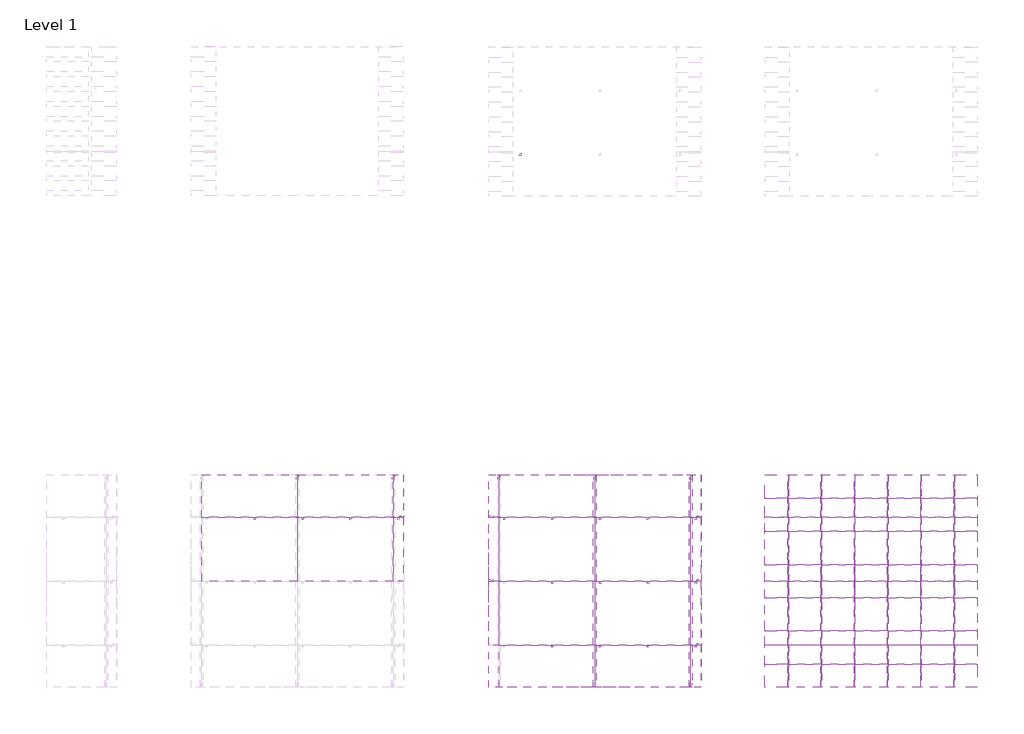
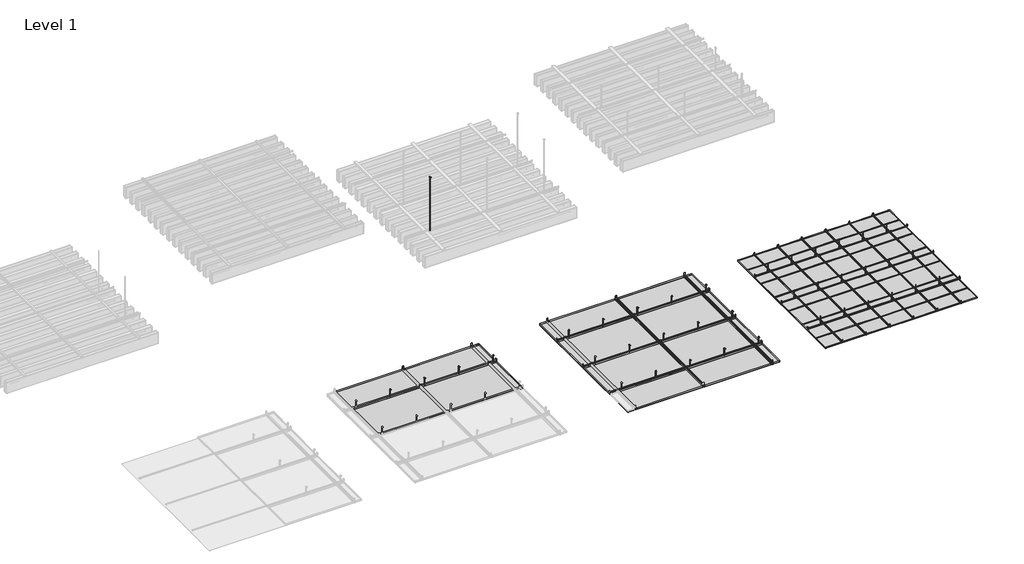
# One storey, part 25 of 32: 141 proxies.
"""IFC4 building model written with IfcOpenShell, lengths in millimetres."""

from ifc_helpers import new_model, si_unit, origin, place, context, project, spatial, transform, mapped, element, save
from components import generic_models_ab528957, generic_models_1702ebeb, generic_models_b2b1e57a, generic_models_3838b954, generic_models_1e71879b, generic_models_39815823, generic_models_aa8f36d8, generic_models_26324e2b, generic_models_eb6e0cd6, generic_models_99a092aa, generic_models_84546a59, generic_models_0f372576, generic_models_da7def32, generic_models_9e18e937, generic_models_28f6a95c, generic_models_9ccf16c1, generic_models_38625c8c, generic_models_743fb40c

model = new_model("IFC4")

# Units and contexts
model_context = context("Model", 3, world=origin())
ifc_project = project(units=[si_unit("LENGTHUNIT", "METRE", prefix="MILLI")], contexts=[model_context])

# Site, building, storey
site = spatial("IfcSite", under=ifc_project)
building = spatial("IfcBuilding", under=site)
storey = spatial("IfcBuildingStorey", under=building, Name="Level 1", Elevation=0.0)

# Proxies
placement = place(None, origin())
generic_models_shape = generic_models_ab528957(model_context)
element("IfcBuildingElementProxy", 1, Name="durlum_S7_panel : durlum_S7_panel", ObjectType="durlum_S7_panel : durlum_S7_panel", at=placement, inside=storey, context=model_context, shape_type="MappedRepresentation", body=[
    mapped(generic_models_shape, transform((16672.6837261, 4350.446135, 3750.0), x_axis=(1.0, 0.0, 0.0), y_axis=(0.0, 1.0, 0.0), z_axis=(0.0, 0.0, 1.0))),
])
element("IfcBuildingElementProxy", 2, Name="durlum_S7_panel : durlum_S7_panel", ObjectType="durlum_S7_panel : durlum_S7_panel", at=placement, inside=storey, context=model_context, shape_type="MappedRepresentation", body=[
    mapped(generic_models_shape, transform((18476.6837261, 4350.446135, 3750.0), x_axis=(1.0, 0.0, 0.0), y_axis=(0.0, 1.0, 0.0), z_axis=(0.0, 0.0, 1.0))),
])
element("IfcBuildingElementProxy", 3, Name="durlum_S7_panel : durlum_S7_panel", ObjectType="durlum_S7_panel : durlum_S7_panel", at=placement, inside=storey, context=model_context, shape_type="MappedRepresentation", body=[
    mapped(generic_models_shape, transform((22270.1507827, 3146.446135, 3750.0), x_axis=(1.0, 0.0, 0.0), y_axis=(0.0, 1.0, 0.0), z_axis=(0.0, 0.0, 1.0))),
])
element("IfcBuildingElementProxy", 4, Name="durlum_S7_panel : durlum_S7_panel", ObjectType="durlum_S7_panel : durlum_S7_panel", at=placement, inside=storey, context=model_context, shape_type="MappedRepresentation", body=[
    mapped(generic_models_shape, transform((24074.1507827, 3146.446135, 3750.0), x_axis=(1.0, 0.0, 0.0), y_axis=(0.0, 1.0, 0.0), z_axis=(0.0, 0.0, 1.0))),
])
element("IfcBuildingElementProxy", 5, Name="durlum_S7_panel : durlum_S7_panel", ObjectType="durlum_S7_panel : durlum_S7_panel", at=placement, inside=storey, context=model_context, shape_type="MappedRepresentation", body=[
    mapped(generic_models_shape, transform((22270.1507827, 4350.446135, 3750.0), x_axis=(1.0, 0.0, 0.0), y_axis=(0.0, 1.0, 0.0), z_axis=(0.0, 0.0, 1.0))),
])
element("IfcBuildingElementProxy", 6, Name="durlum_S7_panel : durlum_S7_panel", ObjectType="durlum_S7_panel : durlum_S7_panel", at=placement, inside=storey, context=model_context, shape_type="MappedRepresentation", body=[
    mapped(generic_models_shape, transform((24074.1507827, 4350.446135, 3750.0), x_axis=(1.0, 0.0, 0.0), y_axis=(0.0, 1.0, 0.0), z_axis=(0.0, 0.0, 1.0))),
])
generic_models_2_shape = generic_models_1702ebeb(model_context)
element("IfcBuildingElementProxy", 7, Name="durlum_S7_panel : durlum_S7_panel_wall_width_cut", ObjectType="durlum_S7_panel : durlum_S7_panel_wall_width_cut", at=placement, inside=storey, context=model_context, shape_type="MappedRepresentation", body=[
    mapped(generic_models_2_shape, transform((18476.6837261, 5350.446135, 3750.0), x_axis=(1.0, 0.0, 0.0), y_axis=(0.0, 1.0, 0.0), z_axis=(0.0, 0.0, 1.0))),
])
element("IfcBuildingElementProxy", 8, Name="durlum_S7_panel : durlum_S7_panel_wall_width_cut", ObjectType="durlum_S7_panel : durlum_S7_panel_wall_width_cut", at=placement, inside=storey, context=model_context, shape_type="MappedRepresentation", body=[
    mapped(generic_models_2_shape, transform((16672.6837261, 5350.446135, 3750.0), x_axis=(1.0, 0.0, 0.0), y_axis=(0.0, 1.0, 0.0), z_axis=(0.0, 0.0, 1.0))),
])
element("IfcBuildingElementProxy", 9, Name="durlum_S7_panel : durlum_S7_panel_wall_width_cut", ObjectType="durlum_S7_panel : durlum_S7_panel_wall_width_cut", at=placement, inside=storey, context=model_context, shape_type="MappedRepresentation", body=[
    mapped(generic_models_2_shape, transform((24074.1507827, 2146.446135, 3750.0), x_axis=(1.0, 0.0, 0.0), y_axis=(0.0, 1.0, 0.0), z_axis=(0.0, 0.0, 1.0))),
])
element("IfcBuildingElementProxy", 10, Name="durlum_S7_panel : durlum_S7_panel_wall_width_cut", ObjectType="durlum_S7_panel : durlum_S7_panel_wall_width_cut", at=placement, inside=storey, context=model_context, shape_type="MappedRepresentation", body=[
    mapped(generic_models_2_shape, transform((24074.1507827, 5350.446135, 3750.0), x_axis=(1.0, 0.0, 0.0), y_axis=(0.0, 1.0, 0.0), z_axis=(0.0, 0.0, 1.0))),
])
element("IfcBuildingElementProxy", 11, Name="durlum_S7_panel : durlum_S7_panel_wall_width_cut", ObjectType="durlum_S7_panel : durlum_S7_panel_wall_width_cut", at=placement, inside=storey, context=model_context, shape_type="MappedRepresentation", body=[
    mapped(generic_models_2_shape, transform((22270.1507827, 2146.446135, 3750.0), x_axis=(1.0, 0.0, 0.0), y_axis=(0.0, 1.0, 0.0), z_axis=(0.0, 0.0, 1.0))),
])
element("IfcBuildingElementProxy", 12, Name="durlum_S7_panel : durlum_S7_panel_wall_width_cut", ObjectType="durlum_S7_panel : durlum_S7_panel_wall_width_cut", at=placement, inside=storey, context=model_context, shape_type="MappedRepresentation", body=[
    mapped(generic_models_2_shape, transform((22270.1507827, 5350.446135, 3750.0), x_axis=(1.0, 0.0, 0.0), y_axis=(0.0, 1.0, 0.0), z_axis=(0.0, 0.0, 1.0))),
])
generic_models_3_shape = generic_models_b2b1e57a(model_context)
element("IfcBuildingElementProxy", 13, Name="durlum_S7_panel : durlum_S7_panel_wall_length_cut", ObjectType="durlum_S7_panel : durlum_S7_panel_wall_length_cut", at=placement, inside=storey, context=model_context, shape_type="MappedRepresentation", body=[
    mapped(generic_models_3_shape, transform((19476.6837261, 4350.446135, 3750.0), x_axis=(1.0, 0.0, 0.0), y_axis=(0.0, 1.0, 0.0), z_axis=(0.0, 0.0, 1.0))),
])
element("IfcBuildingElementProxy", 14, Name="durlum_S7_panel : durlum_S7_panel_wall_length_cut", ObjectType="durlum_S7_panel : durlum_S7_panel_wall_length_cut", at=placement, inside=storey, context=model_context, shape_type="MappedRepresentation", body=[
    mapped(generic_models_3_shape, transform((21270.1507827, 3146.446135, 3750.0), x_axis=(1.0, 0.0, 0.0), y_axis=(0.0, 1.0, 0.0), z_axis=(0.0, 0.0, 1.0))),
])
element("IfcBuildingElementProxy", 15, Name="durlum_S7_panel : durlum_S7_panel_wall_length_cut", ObjectType="durlum_S7_panel : durlum_S7_panel_wall_length_cut", at=placement, inside=storey, context=model_context, shape_type="MappedRepresentation", body=[
    mapped(generic_models_3_shape, transform((25074.1507827, 3146.446135, 3750.0), x_axis=(1.0, 0.0, 0.0), y_axis=(0.0, 1.0, 0.0), z_axis=(0.0, 0.0, 1.0))),
])
element("IfcBuildingElementProxy", 16, Name="durlum_S7_panel : durlum_S7_panel_wall_length_cut", ObjectType="durlum_S7_panel : durlum_S7_panel_wall_length_cut", at=placement, inside=storey, context=model_context, shape_type="MappedRepresentation", body=[
    mapped(generic_models_3_shape, transform((25074.1507827, 4350.446135, 3750.0), x_axis=(1.0, 0.0, 0.0), y_axis=(0.0, 1.0, 0.0), z_axis=(0.0, 0.0, 1.0))),
])
element("IfcBuildingElementProxy", 17, Name="durlum_S7_panel : durlum_S7_panel_wall_length_cut", ObjectType="durlum_S7_panel : durlum_S7_panel_wall_length_cut", at=placement, inside=storey, context=model_context, shape_type="MappedRepresentation", body=[
    mapped(generic_models_3_shape, transform((21270.1507827, 4350.446135, 3750.0), x_axis=(1.0, 0.0, 0.0), y_axis=(0.0, 1.0, 0.0), z_axis=(0.0, 0.0, 1.0))),
])
generic_models_4_shape = generic_models_3838b954(model_context)
element("IfcBuildingElementProxy", 18, Name="durlum_S7_panel : durlum_S7_panel_wall_corner", ObjectType="durlum_S7_panel : durlum_S7_panel_wall_corner", at=placement, inside=storey, context=model_context, shape_type="MappedRepresentation", body=[
    mapped(generic_models_4_shape, transform((19476.6837261, 5350.446135, 3750.0), x_axis=(1.0, 0.0, 0.0), y_axis=(0.0, 1.0, 0.0), z_axis=(0.0, 0.0, 1.0))),
])
element("IfcBuildingElementProxy", 19, Name="durlum_S7_panel : durlum_S7_panel_wall_corner", ObjectType="durlum_S7_panel : durlum_S7_panel_wall_corner", at=placement, inside=storey, context=model_context, shape_type="MappedRepresentation", body=[
    mapped(generic_models_4_shape, transform((25074.1507827, 2146.446135, 3750.0), x_axis=(1.0, 0.0, 0.0), y_axis=(0.0, 1.0, 0.0), z_axis=(0.0, 0.0, 1.0))),
])
element("IfcBuildingElementProxy", 20, Name="durlum_S7_panel : durlum_S7_panel_wall_corner", ObjectType="durlum_S7_panel : durlum_S7_panel_wall_corner", at=placement, inside=storey, context=model_context, shape_type="MappedRepresentation", body=[
    mapped(generic_models_4_shape, transform((25074.1507827, 5350.446135, 3750.0), x_axis=(1.0, 0.0, 0.0), y_axis=(0.0, 1.0, 0.0), z_axis=(0.0, 0.0, 1.0))),
])
element("IfcBuildingElementProxy", 21, Name="durlum_S7_panel : durlum_S7_panel_wall_corner", ObjectType="durlum_S7_panel : durlum_S7_panel_wall_corner", at=placement, inside=storey, context=model_context, shape_type="MappedRepresentation", body=[
    mapped(generic_models_4_shape, transform((21270.1507827, 5350.446135, 3750.0), x_axis=(1.0, 0.0, 0.0), y_axis=(0.0, 1.0, 0.0), z_axis=(0.0, 0.0, 1.0))),
])
generic_models_5_shape = generic_models_1e71879b(model_context)
element("IfcBuildingElementProxy", 22, Name="durlum_FLUID-C : durlum_FLUID-C_604x604", ObjectType="durlum_FLUID-C : durlum_FLUID-C_604x604", at=placement, inside=storey, context=model_context, shape_type="MappedRepresentation", body=[
    mapped(generic_models_5_shape, transform((23172.1507827, 3748.446135, 0.0), x_axis=(1.0, 0.0, 0.0), y_axis=(0.0, 1.0, 0.0), z_axis=(0.0, 0.0, 1.0))),
])
generic_models_6_shape = generic_models_39815823(model_context)
element("IfcBuildingElementProxy", 23, Name="durlum_S1_panel : durlum_S1_panel", ObjectType="durlum_S1_panel : durlum_S1_panel", at=placement, inside=storey, context=model_context, shape_type="MappedRepresentation", body=[
    mapped(generic_models_6_shape, transform((27747.1507827, 4373.446135, 3711.0), x_axis=(1.0, 0.0, 0.0), y_axis=(0.0, 1.0, 0.0), z_axis=(0.0, 0.0, 1.0))),
])
element("IfcBuildingElementProxy", 24, Name="durlum_S1_panel : durlum_S1_panel", ObjectType="durlum_S1_panel : durlum_S1_panel", at=placement, inside=storey, context=model_context, shape_type="MappedRepresentation", body=[
    mapped(generic_models_6_shape, transform((27747.1507827, 2498.446135, 3711.0), x_axis=(1.0, 0.0, 0.0), y_axis=(0.0, 1.0, 0.0), z_axis=(0.0, 0.0, 1.0))),
])
element("IfcBuildingElementProxy", 25, Name="durlum_S1_panel : durlum_S1_panel", ObjectType="durlum_S1_panel : durlum_S1_panel", at=placement, inside=storey, context=model_context, shape_type="MappedRepresentation", body=[
    mapped(generic_models_6_shape, transform((27747.1507827, 4998.446135, 3711.0), x_axis=(1.0, 0.0, 0.0), y_axis=(0.0, 1.0, 0.0), z_axis=(0.0, 0.0, 1.0))),
])
element("IfcBuildingElementProxy", 26, Name="durlum_S1_panel : durlum_S1_panel", ObjectType="durlum_S1_panel : durlum_S1_panel", at=placement, inside=storey, context=model_context, shape_type="MappedRepresentation", body=[
    mapped(generic_models_6_shape, transform((27122.1507827, 4373.446135, 3711.0), x_axis=(1.0, 0.0, 0.0), y_axis=(0.0, 1.0, 0.0), z_axis=(0.0, 0.0, 1.0))),
])
element("IfcBuildingElementProxy", 27, Name="durlum_S1_panel : durlum_S1_panel", ObjectType="durlum_S1_panel : durlum_S1_panel", at=placement, inside=storey, context=model_context, shape_type="MappedRepresentation", body=[
    mapped(generic_models_6_shape, transform((29622.1507827, 4373.446135, 3711.0), x_axis=(1.0, 0.0, 0.0), y_axis=(0.0, 1.0, 0.0), z_axis=(0.0, 0.0, 1.0))),
])
element("IfcBuildingElementProxy", 28, Name="durlum_S1_panel : durlum_S1_panel", ObjectType="durlum_S1_panel : durlum_S1_panel", at=placement, inside=storey, context=model_context, shape_type="MappedRepresentation", body=[
    mapped(generic_models_6_shape, transform((27122.1507827, 2498.446135, 3711.0), x_axis=(1.0, 0.0, 0.0), y_axis=(0.0, 1.0, 0.0), z_axis=(0.0, 0.0, 1.0))),
])
element("IfcBuildingElementProxy", 29, Name="durlum_S1_panel : durlum_S1_panel", ObjectType="durlum_S1_panel : durlum_S1_panel", at=placement, inside=storey, context=model_context, shape_type="MappedRepresentation", body=[
    mapped(generic_models_6_shape, transform((29622.1507827, 2498.446135, 3711.0), x_axis=(1.0, 0.0, 0.0), y_axis=(0.0, 1.0, 0.0), z_axis=(0.0, 0.0, 1.0))),
])
element("IfcBuildingElementProxy", 30, Name="durlum_S1_panel : durlum_S1_panel", ObjectType="durlum_S1_panel : durlum_S1_panel", at=placement, inside=storey, context=model_context, shape_type="MappedRepresentation", body=[
    mapped(generic_models_6_shape, transform((27122.1507827, 4998.446135, 3711.0), x_axis=(1.0, 0.0, 0.0), y_axis=(0.0, 1.0, 0.0), z_axis=(0.0, 0.0, 1.0))),
])
element("IfcBuildingElementProxy", 31, Name="durlum_S1_panel : durlum_S1_panel", ObjectType="durlum_S1_panel : durlum_S1_panel", at=placement, inside=storey, context=model_context, shape_type="MappedRepresentation", body=[
    mapped(generic_models_6_shape, transform((29622.1507827, 4998.446135, 3711.0), x_axis=(1.0, 0.0, 0.0), y_axis=(0.0, 1.0, 0.0), z_axis=(0.0, 0.0, 1.0))),
])
element("IfcBuildingElementProxy", 32, Name="durlum_S1_panel : durlum_S1_panel", ObjectType="durlum_S1_panel : durlum_S1_panel", at=placement, inside=storey, context=model_context, shape_type="MappedRepresentation", body=[
    mapped(generic_models_6_shape, transform((28372.1507827, 2498.446135, 3711.0), x_axis=(1.0, 0.0, 0.0), y_axis=(0.0, 1.0, 0.0), z_axis=(0.0, 0.0, 1.0))),
])
element("IfcBuildingElementProxy", 33, Name="durlum_S1_panel : durlum_S1_panel", ObjectType="durlum_S1_panel : durlum_S1_panel", at=placement, inside=storey, context=model_context, shape_type="MappedRepresentation", body=[
    mapped(generic_models_6_shape, transform((28997.1507827, 2498.446135, 3711.0), x_axis=(1.0, 0.0, 0.0), y_axis=(0.0, 1.0, 0.0), z_axis=(0.0, 0.0, 1.0))),
])
element("IfcBuildingElementProxy", 34, Name="durlum_S1_panel : durlum_S1_panel", ObjectType="durlum_S1_panel : durlum_S1_panel", at=placement, inside=storey, context=model_context, shape_type="MappedRepresentation", body=[
    mapped(generic_models_6_shape, transform((28372.1507827, 4998.446135, 3711.0), x_axis=(1.0, 0.0, 0.0), y_axis=(0.0, 1.0, 0.0), z_axis=(0.0, 0.0, 1.0))),
])
element("IfcBuildingElementProxy", 35, Name="durlum_S1_panel : durlum_S1_panel", ObjectType="durlum_S1_panel : durlum_S1_panel", at=placement, inside=storey, context=model_context, shape_type="MappedRepresentation", body=[
    mapped(generic_models_6_shape, transform((28997.1507827, 4998.446135, 3711.0), x_axis=(1.0, 0.0, 0.0), y_axis=(0.0, 1.0, 0.0), z_axis=(0.0, 0.0, 1.0))),
])
element("IfcBuildingElementProxy", 36, Name="durlum_S1_panel : durlum_S1_panel", ObjectType="durlum_S1_panel : durlum_S1_panel", at=placement, inside=storey, context=model_context, shape_type="MappedRepresentation", body=[
    mapped(generic_models_6_shape, transform((28372.1507827, 4373.446135, 3711.0), x_axis=(1.0, 0.0, 0.0), y_axis=(0.0, 1.0, 0.0), z_axis=(0.0, 0.0, 1.0))),
])
element("IfcBuildingElementProxy", 37, Name="durlum_S1_panel : durlum_S1_panel", ObjectType="durlum_S1_panel : durlum_S1_panel", at=placement, inside=storey, context=model_context, shape_type="MappedRepresentation", body=[
    mapped(generic_models_6_shape, transform((28997.1507827, 4373.446135, 3711.0), x_axis=(1.0, 0.0, 0.0), y_axis=(0.0, 1.0, 0.0), z_axis=(0.0, 0.0, 1.0))),
])
element("IfcBuildingElementProxy", 38, Name="durlum_S1_panel : durlum_S1_panel", ObjectType="durlum_S1_panel : durlum_S1_panel", at=placement, inside=storey, context=model_context, shape_type="MappedRepresentation", body=[
    mapped(generic_models_6_shape, transform((28372.1507827, 3123.446135, 3711.0), x_axis=(1.0, 0.0, 0.0), y_axis=(0.0, 1.0, 0.0), z_axis=(0.0, 0.0, 1.0))),
])
element("IfcBuildingElementProxy", 39, Name="durlum_S1_panel : durlum_S1_panel", ObjectType="durlum_S1_panel : durlum_S1_panel", at=placement, inside=storey, context=model_context, shape_type="MappedRepresentation", body=[
    mapped(generic_models_6_shape, transform((28997.1507827, 3123.446135, 3711.0), x_axis=(1.0, 0.0, 0.0), y_axis=(0.0, 1.0, 0.0), z_axis=(0.0, 0.0, 1.0))),
])
element("IfcBuildingElementProxy", 40, Name="durlum_S1_panel : durlum_S1_panel", ObjectType="durlum_S1_panel : durlum_S1_panel", at=placement, inside=storey, context=model_context, shape_type="MappedRepresentation", body=[
    mapped(generic_models_6_shape, transform((27747.1507827, 3123.446135, 3711.0), x_axis=(1.0, 0.0, 0.0), y_axis=(0.0, 1.0, 0.0), z_axis=(0.0, 0.0, 1.0))),
])
element("IfcBuildingElementProxy", 41, Name="durlum_S1_panel : durlum_S1_panel", ObjectType="durlum_S1_panel : durlum_S1_panel", at=placement, inside=storey, context=model_context, shape_type="MappedRepresentation", body=[
    mapped(generic_models_6_shape, transform((27122.1507827, 3123.446135, 3711.0), x_axis=(1.0, 0.0, 0.0), y_axis=(0.0, 1.0, 0.0), z_axis=(0.0, 0.0, 1.0))),
])
element("IfcBuildingElementProxy", 42, Name="durlum_S1_panel : durlum_S1_panel", ObjectType="durlum_S1_panel : durlum_S1_panel", at=placement, inside=storey, context=model_context, shape_type="MappedRepresentation", body=[
    mapped(generic_models_6_shape, transform((29622.1507827, 3123.446135, 3711.0), x_axis=(1.0, 0.0, 0.0), y_axis=(0.0, 1.0, 0.0), z_axis=(0.0, 0.0, 1.0))),
])
element("IfcBuildingElementProxy", 43, Name="durlum_S1_panel : durlum_S1_panel", ObjectType="durlum_S1_panel : durlum_S1_panel", at=placement, inside=storey, context=model_context, shape_type="MappedRepresentation", body=[
    mapped(generic_models_6_shape, transform((28372.1507827, 3748.446135, 3711.0), x_axis=(1.0, 0.0, 0.0), y_axis=(0.0, 1.0, 0.0), z_axis=(0.0, 0.0, 1.0))),
])
element("IfcBuildingElementProxy", 44, Name="durlum_S1_panel : durlum_S1_panel", ObjectType="durlum_S1_panel : durlum_S1_panel", at=placement, inside=storey, context=model_context, shape_type="MappedRepresentation", body=[
    mapped(generic_models_6_shape, transform((28997.1507827, 3748.446135, 3711.0), x_axis=(1.0, 0.0, 0.0), y_axis=(0.0, 1.0, 0.0), z_axis=(0.0, 0.0, 1.0))),
])
element("IfcBuildingElementProxy", 45, Name="durlum_S1_panel : durlum_S1_panel", ObjectType="durlum_S1_panel : durlum_S1_panel", at=placement, inside=storey, context=model_context, shape_type="MappedRepresentation", body=[
    mapped(generic_models_6_shape, transform((27747.1507827, 3748.446135, 3711.0), x_axis=(1.0, 0.0, 0.0), y_axis=(0.0, 1.0, 0.0), z_axis=(0.0, 0.0, 1.0))),
])
element("IfcBuildingElementProxy", 46, Name="durlum_S1_panel : durlum_S1_panel", ObjectType="durlum_S1_panel : durlum_S1_panel", at=placement, inside=storey, context=model_context, shape_type="MappedRepresentation", body=[
    mapped(generic_models_6_shape, transform((27122.1507827, 3748.446135, 3711.0), x_axis=(1.0, 0.0, 0.0), y_axis=(0.0, 1.0, 0.0), z_axis=(0.0, 0.0, 1.0))),
])
element("IfcBuildingElementProxy", 47, Name="durlum_S1_panel : durlum_S1_panel", ObjectType="durlum_S1_panel : durlum_S1_panel", at=placement, inside=storey, context=model_context, shape_type="MappedRepresentation", body=[
    mapped(generic_models_6_shape, transform((29622.1507827, 3748.446135, 3711.0), x_axis=(1.0, 0.0, 0.0), y_axis=(0.0, 1.0, 0.0), z_axis=(0.0, 0.0, 1.0))),
])
generic_models_7_shape = generic_models_aa8f36d8(model_context)
element("IfcBuildingElementProxy", 48, Name="durlum_S1_panel : durlum_S1_panel_wall_length_cut", ObjectType="durlum_S1_panel : durlum_S1_panel_wall_length_cut", at=placement, inside=storey, context=model_context, shape_type="MappedRepresentation", body=[
    mapped(generic_models_7_shape, transform((26590.9007827, 4373.446135, 3711.0), x_axis=(1.0, 0.0, 0.0), y_axis=(0.0, 1.0, 0.0), z_axis=(0.0, 0.0, 1.0))),
])
element("IfcBuildingElementProxy", 49, Name="durlum_S1_panel : durlum_S1_panel_wall_length_cut", ObjectType="durlum_S1_panel : durlum_S1_panel_wall_length_cut", at=placement, inside=storey, context=model_context, shape_type="MappedRepresentation", body=[
    mapped(generic_models_7_shape, transform((30153.4007827, 4373.446135, 3711.0), x_axis=(1.0, 0.0, 0.0), y_axis=(0.0, 1.0, 0.0), z_axis=(0.0, 0.0, 1.0))),
])
element("IfcBuildingElementProxy", 50, Name="durlum_S1_panel : durlum_S1_panel_wall_length_cut", ObjectType="durlum_S1_panel : durlum_S1_panel_wall_length_cut", at=placement, inside=storey, context=model_context, shape_type="MappedRepresentation", body=[
    mapped(generic_models_7_shape, transform((26590.9007827, 2498.446135, 3711.0), x_axis=(1.0, 0.0, 0.0), y_axis=(0.0, 1.0, 0.0), z_axis=(0.0, 0.0, 1.0))),
])
element("IfcBuildingElementProxy", 51, Name="durlum_S1_panel : durlum_S1_panel_wall_length_cut", ObjectType="durlum_S1_panel : durlum_S1_panel_wall_length_cut", at=placement, inside=storey, context=model_context, shape_type="MappedRepresentation", body=[
    mapped(generic_models_7_shape, transform((30153.4007827, 2498.446135, 3711.0), x_axis=(1.0, 0.0, 0.0), y_axis=(0.0, 1.0, 0.0), z_axis=(0.0, 0.0, 1.0))),
])
element("IfcBuildingElementProxy", 52, Name="durlum_S1_panel : durlum_S1_panel_wall_length_cut", ObjectType="durlum_S1_panel : durlum_S1_panel_wall_length_cut", at=placement, inside=storey, context=model_context, shape_type="MappedRepresentation", body=[
    mapped(generic_models_7_shape, transform((30153.4007827, 4998.446135, 3711.0), x_axis=(1.0, 0.0, 0.0), y_axis=(0.0, 1.0, 0.0), z_axis=(0.0, 0.0, 1.0))),
])
element("IfcBuildingElementProxy", 53, Name="durlum_S1_panel : durlum_S1_panel_wall_length_cut", ObjectType="durlum_S1_panel : durlum_S1_panel_wall_length_cut", at=placement, inside=storey, context=model_context, shape_type="MappedRepresentation", body=[
    mapped(generic_models_7_shape, transform((26590.9007827, 4998.446135, 3711.0), x_axis=(1.0, 0.0, 0.0), y_axis=(0.0, 1.0, 0.0), z_axis=(0.0, 0.0, 1.0))),
])
element("IfcBuildingElementProxy", 54, Name="durlum_S1_panel : durlum_S1_panel_wall_length_cut", ObjectType="durlum_S1_panel : durlum_S1_panel_wall_length_cut", at=placement, inside=storey, context=model_context, shape_type="MappedRepresentation", body=[
    mapped(generic_models_7_shape, transform((30153.4007827, 3123.446135, 3711.0), x_axis=(1.0, 0.0, 0.0), y_axis=(0.0, 1.0, 0.0), z_axis=(0.0, 0.0, 1.0))),
])
element("IfcBuildingElementProxy", 55, Name="durlum_S1_panel : durlum_S1_panel_wall_length_cut", ObjectType="durlum_S1_panel : durlum_S1_panel_wall_length_cut", at=placement, inside=storey, context=model_context, shape_type="MappedRepresentation", body=[
    mapped(generic_models_7_shape, transform((30153.4007827, 3748.446135, 3711.0), x_axis=(1.0, 0.0, 0.0), y_axis=(0.0, 1.0, 0.0), z_axis=(0.0, 0.0, 1.0))),
])
element("IfcBuildingElementProxy", 56, Name="durlum_S1_panel : durlum_S1_panel_wall_length_cut", ObjectType="durlum_S1_panel : durlum_S1_panel_wall_length_cut", at=placement, inside=storey, context=model_context, shape_type="MappedRepresentation", body=[
    mapped(generic_models_7_shape, transform((26590.9007827, 3123.446135, 3711.0), x_axis=(1.0, 0.0, 0.0), y_axis=(0.0, 1.0, 0.0), z_axis=(0.0, 0.0, 1.0))),
])
element("IfcBuildingElementProxy", 57, Name="durlum_S1_panel : durlum_S1_panel_wall_length_cut", ObjectType="durlum_S1_panel : durlum_S1_panel_wall_length_cut", at=placement, inside=storey, context=model_context, shape_type="MappedRepresentation", body=[
    mapped(generic_models_7_shape, transform((26590.9007827, 3748.446135, 3711.0), x_axis=(1.0, 0.0, 0.0), y_axis=(0.0, 1.0, 0.0), z_axis=(0.0, 0.0, 1.0))),
])
generic_models_8_shape = generic_models_26324e2b(model_context)
element("IfcBuildingElementProxy", 58, Name="durlum_S1_panel : durlum_S1_panel_wall_width_cut", ObjectType="durlum_S1_panel : durlum_S1_panel_wall_width_cut", at=placement, inside=storey, context=model_context, shape_type="MappedRepresentation", body=[
    mapped(generic_models_8_shape, transform((27747.1507827, 1967.196135, 3711.0), x_axis=(1.0, 0.0, 0.0), y_axis=(0.0, 1.0, 0.0), z_axis=(0.0, 0.0, 1.0))),
])
element("IfcBuildingElementProxy", 59, Name="durlum_S1_panel : durlum_S1_panel_wall_width_cut", ObjectType="durlum_S1_panel : durlum_S1_panel_wall_width_cut", at=placement, inside=storey, context=model_context, shape_type="MappedRepresentation", body=[
    mapped(generic_models_8_shape, transform((27747.1507827, 5529.696135, 3711.0), x_axis=(1.0, 0.0, 0.0), y_axis=(0.0, 1.0, 0.0), z_axis=(0.0, 0.0, 1.0))),
])
element("IfcBuildingElementProxy", 60, Name="durlum_S1_panel : durlum_S1_panel_wall_width_cut", ObjectType="durlum_S1_panel : durlum_S1_panel_wall_width_cut", at=placement, inside=storey, context=model_context, shape_type="MappedRepresentation", body=[
    mapped(generic_models_8_shape, transform((29622.1507827, 1967.196135, 3711.0), x_axis=(1.0, 0.0, 0.0), y_axis=(0.0, 1.0, 0.0), z_axis=(0.0, 0.0, 1.0))),
])
element("IfcBuildingElementProxy", 61, Name="durlum_S1_panel : durlum_S1_panel_wall_width_cut", ObjectType="durlum_S1_panel : durlum_S1_panel_wall_width_cut", at=placement, inside=storey, context=model_context, shape_type="MappedRepresentation", body=[
    mapped(generic_models_8_shape, transform((29622.1507827, 5529.696135, 3711.0), x_axis=(1.0, 0.0, 0.0), y_axis=(0.0, 1.0, 0.0), z_axis=(0.0, 0.0, 1.0))),
])
element("IfcBuildingElementProxy", 62, Name="durlum_S1_panel : durlum_S1_panel_wall_width_cut", ObjectType="durlum_S1_panel : durlum_S1_panel_wall_width_cut", at=placement, inside=storey, context=model_context, shape_type="MappedRepresentation", body=[
    mapped(generic_models_8_shape, transform((27122.1507827, 1967.196135, 3711.0), x_axis=(1.0, 0.0, 0.0), y_axis=(0.0, 1.0, 0.0), z_axis=(0.0, 0.0, 1.0))),
])
element("IfcBuildingElementProxy", 63, Name="durlum_S1_panel : durlum_S1_panel_wall_width_cut", ObjectType="durlum_S1_panel : durlum_S1_panel_wall_width_cut", at=placement, inside=storey, context=model_context, shape_type="MappedRepresentation", body=[
    mapped(generic_models_8_shape, transform((27122.1507827, 5529.696135, 3711.0), x_axis=(1.0, 0.0, 0.0), y_axis=(0.0, 1.0, 0.0), z_axis=(0.0, 0.0, 1.0))),
])
element("IfcBuildingElementProxy", 64, Name="durlum_S1_panel : durlum_S1_panel_wall_width_cut", ObjectType="durlum_S1_panel : durlum_S1_panel_wall_width_cut", at=placement, inside=storey, context=model_context, shape_type="MappedRepresentation", body=[
    mapped(generic_models_8_shape, transform((28997.1507827, 1967.196135, 3711.0), x_axis=(1.0, 0.0, 0.0), y_axis=(0.0, 1.0, 0.0), z_axis=(0.0, 0.0, 1.0))),
])
element("IfcBuildingElementProxy", 65, Name="durlum_S1_panel : durlum_S1_panel_wall_width_cut", ObjectType="durlum_S1_panel : durlum_S1_panel_wall_width_cut", at=placement, inside=storey, context=model_context, shape_type="MappedRepresentation", body=[
    mapped(generic_models_8_shape, transform((28372.1507827, 1967.196135, 3711.0), x_axis=(1.0, 0.0, 0.0), y_axis=(0.0, 1.0, 0.0), z_axis=(0.0, 0.0, 1.0))),
])
element("IfcBuildingElementProxy", 66, Name="durlum_S1_panel : durlum_S1_panel_wall_width_cut", ObjectType="durlum_S1_panel : durlum_S1_panel_wall_width_cut", at=placement, inside=storey, context=model_context, shape_type="MappedRepresentation", body=[
    mapped(generic_models_8_shape, transform((28997.1507827, 5529.696135, 3711.0), x_axis=(1.0, 0.0, 0.0), y_axis=(0.0, 1.0, 0.0), z_axis=(0.0, 0.0, 1.0))),
])
element("IfcBuildingElementProxy", 67, Name="durlum_S1_panel : durlum_S1_panel_wall_width_cut", ObjectType="durlum_S1_panel : durlum_S1_panel_wall_width_cut", at=placement, inside=storey, context=model_context, shape_type="MappedRepresentation", body=[
    mapped(generic_models_8_shape, transform((28372.1507827, 5529.696135, 3711.0), x_axis=(1.0, 0.0, 0.0), y_axis=(0.0, 1.0, 0.0), z_axis=(0.0, 0.0, 1.0))),
])
generic_models_9_shape = generic_models_eb6e0cd6(model_context)
element("IfcBuildingElementProxy", 68, Name="durlum_S1_panel : durlum_S1_panel_wall_corner", ObjectType="durlum_S1_panel : durlum_S1_panel_wall_corner", at=placement, inside=storey, context=model_context, shape_type="MappedRepresentation", body=[
    mapped(generic_models_9_shape, transform((26590.9007827, 1967.196135, 3711.0), x_axis=(1.0, 0.0, 0.0), y_axis=(0.0, 1.0, 0.0), z_axis=(0.0, 0.0, 1.0))),
])
element("IfcBuildingElementProxy", 69, Name="durlum_S1_panel : durlum_S1_panel_wall_corner", ObjectType="durlum_S1_panel : durlum_S1_panel_wall_corner", at=placement, inside=storey, context=model_context, shape_type="MappedRepresentation", body=[
    mapped(generic_models_9_shape, transform((30153.4007827, 1967.196135, 3711.0), x_axis=(1.0, 0.0, 0.0), y_axis=(0.0, 1.0, 0.0), z_axis=(0.0, 0.0, 1.0))),
])
element("IfcBuildingElementProxy", 70, Name="durlum_S1_panel : durlum_S1_panel_wall_corner", ObjectType="durlum_S1_panel : durlum_S1_panel_wall_corner", at=placement, inside=storey, context=model_context, shape_type="MappedRepresentation", body=[
    mapped(generic_models_9_shape, transform((30153.4007827, 5529.696135, 3711.0), x_axis=(1.0, 0.0, 0.0), y_axis=(0.0, 1.0, 0.0), z_axis=(0.0, 0.0, 1.0))),
])
element("IfcBuildingElementProxy", 71, Name="durlum_S1_panel : durlum_S1_panel_wall_corner", ObjectType="durlum_S1_panel : durlum_S1_panel_wall_corner", at=placement, inside=storey, context=model_context, shape_type="MappedRepresentation", body=[
    mapped(generic_models_9_shape, transform((26590.9007827, 5529.696135, 3711.0), x_axis=(1.0, 0.0, 0.0), y_axis=(0.0, 1.0, 0.0), z_axis=(0.0, 0.0, 1.0))),
])
generic_models_10_shape = generic_models_99a092aa(model_context)
element("IfcBuildingElementProxy", 72, Name="durlum_FLUID-L : durlum_FLUID-L", ObjectType="durlum_FLUID-L : durlum_FLUID-L", at=placement, inside=storey, context=model_context, shape_type="MappedRepresentation", body=[
    mapped(generic_models_10_shape, transform((28372.1507827, 3748.446135, 1700.0), x_axis=(1.0, 0.0, 0.0), y_axis=(0.0, 1.0, 0.0), z_axis=(0.0, 0.0, 1.0))),
])
generic_models_11_shape = generic_models_84546a59(model_context)
element("IfcBuildingElementProxy", 73, Name="durlum_threaded_rod_M6 : durlum_threaded_rod_M6", ObjectType="durlum_threaded_rod_M6 : durlum_threaded_rod_M6", at=placement, inside=storey, context=model_context, shape_type="MappedRepresentation", body=[
    mapped(generic_models_11_shape, transform((29834.6507827, 2548.446135, 3835.0), x_axis=(1.0, 0.0, 0.0), y_axis=(0.0, 1.0, 0.0), z_axis=(0.0, 0.0, 1.0))),
])
element("IfcBuildingElementProxy", 74, Name="durlum_threaded_rod_M6 : durlum_threaded_rod_M6", ObjectType="durlum_threaded_rod_M6 : durlum_threaded_rod_M6", at=placement, inside=storey, context=model_context, shape_type="MappedRepresentation", body=[
    mapped(generic_models_11_shape, transform((26709.6507827, 2548.446135, 3835.0), x_axis=(1.0, 0.0, 0.0), y_axis=(0.0, 1.0, 0.0), z_axis=(0.0, 0.0, 1.0))),
])
element("IfcBuildingElementProxy", 75, Name="durlum_threaded_rod_M6 : durlum_threaded_rod_M6", ObjectType="durlum_threaded_rod_M6 : durlum_threaded_rod_M6", at=placement, inside=storey, context=model_context, shape_type="MappedRepresentation", body=[
    mapped(generic_models_11_shape, transform((29209.6507827, 2548.446135, 3835.0), x_axis=(1.0, 0.0, 0.0), y_axis=(0.0, 1.0, 0.0), z_axis=(0.0, 0.0, 1.0))),
])
element("IfcBuildingElementProxy", 76, Name="durlum_threaded_rod_M6 : durlum_threaded_rod_M6", ObjectType="durlum_threaded_rod_M6 : durlum_threaded_rod_M6", at=placement, inside=storey, context=model_context, shape_type="MappedRepresentation", body=[
    mapped(generic_models_11_shape, transform((28584.6507827, 2548.446135, 3835.0), x_axis=(1.0, 0.0, 0.0), y_axis=(0.0, 1.0, 0.0), z_axis=(0.0, 0.0, 1.0))),
])
element("IfcBuildingElementProxy", 77, Name="durlum_threaded_rod_M6 : durlum_threaded_rod_M6", ObjectType="durlum_threaded_rod_M6 : durlum_threaded_rod_M6", at=placement, inside=storey, context=model_context, shape_type="MappedRepresentation", body=[
    mapped(generic_models_11_shape, transform((29834.6507827, 4948.446135, 3835.0), x_axis=(1.0, 0.0, 0.0), y_axis=(0.0, 1.0, 0.0), z_axis=(0.0, 0.0, 1.0))),
])
element("IfcBuildingElementProxy", 78, Name="durlum_threaded_rod_M6 : durlum_threaded_rod_M6", ObjectType="durlum_threaded_rod_M6 : durlum_threaded_rod_M6", at=placement, inside=storey, context=model_context, shape_type="MappedRepresentation", body=[
    mapped(generic_models_11_shape, transform((26709.6507827, 4948.446135, 3835.0), x_axis=(1.0, 0.0, 0.0), y_axis=(0.0, 1.0, 0.0), z_axis=(0.0, 0.0, 1.0))),
])
element("IfcBuildingElementProxy", 79, Name="durlum_threaded_rod_M6 : durlum_threaded_rod_M6", ObjectType="durlum_threaded_rod_M6 : durlum_threaded_rod_M6", at=placement, inside=storey, context=model_context, shape_type="MappedRepresentation", body=[
    mapped(generic_models_11_shape, transform((29209.6507827, 4948.446135, 3835.0), x_axis=(1.0, 0.0, 0.0), y_axis=(0.0, 1.0, 0.0), z_axis=(0.0, 0.0, 1.0))),
])
element("IfcBuildingElementProxy", 80, Name="durlum_threaded_rod_M6 : durlum_threaded_rod_M6", ObjectType="durlum_threaded_rod_M6 : durlum_threaded_rod_M6", at=placement, inside=storey, context=model_context, shape_type="MappedRepresentation", body=[
    mapped(generic_models_11_shape, transform((28584.6507827, 4948.446135, 3835.0), x_axis=(1.0, 0.0, 0.0), y_axis=(0.0, 1.0, 0.0), z_axis=(0.0, 0.0, 1.0))),
])
element("IfcBuildingElementProxy", 81, Name="durlum_threaded_rod_M6 : durlum_threaded_rod_M6", ObjectType="durlum_threaded_rod_M6 : durlum_threaded_rod_M6", at=placement, inside=storey, context=model_context, shape_type="MappedRepresentation", body=[
    mapped(generic_models_11_shape, transform((27959.6507827, 4948.446135, 3835.0), x_axis=(1.0, 0.0, 0.0), y_axis=(0.0, 1.0, 0.0), z_axis=(0.0, 0.0, 1.0))),
])
element("IfcBuildingElementProxy", 82, Name="durlum_threaded_rod_M6 : durlum_threaded_rod_M6", ObjectType="durlum_threaded_rod_M6 : durlum_threaded_rod_M6", at=placement, inside=storey, context=model_context, shape_type="MappedRepresentation", body=[
    mapped(generic_models_11_shape, transform((27334.6507827, 4948.446135, 3835.0), x_axis=(1.0, 0.0, 0.0), y_axis=(0.0, 1.0, 0.0), z_axis=(0.0, 0.0, 1.0))),
])
element("IfcBuildingElementProxy", 83, Name="durlum_threaded_rod_M6 : durlum_threaded_rod_M6", ObjectType="durlum_threaded_rod_M6 : durlum_threaded_rod_M6", at=placement, inside=storey, context=model_context, shape_type="MappedRepresentation", body=[
    mapped(generic_models_11_shape, transform((27959.6507827, 2548.446135, 3835.0), x_axis=(1.0, 0.0, 0.0), y_axis=(0.0, 1.0, 0.0), z_axis=(0.0, 0.0, 1.0))),
])
element("IfcBuildingElementProxy", 84, Name="durlum_threaded_rod_M6 : durlum_threaded_rod_M6", ObjectType="durlum_threaded_rod_M6 : durlum_threaded_rod_M6", at=placement, inside=storey, context=model_context, shape_type="MappedRepresentation", body=[
    mapped(generic_models_11_shape, transform((27334.6507827, 2548.446135, 3835.0), x_axis=(1.0, 0.0, 0.0), y_axis=(0.0, 1.0, 0.0), z_axis=(0.0, 0.0, 1.0))),
])
element("IfcBuildingElementProxy", 85, Name="durlum_threaded_rod_M6 : durlum_threaded_rod_M6", ObjectType="durlum_threaded_rod_M6 : durlum_threaded_rod_M6", at=placement, inside=storey, context=model_context, shape_type="MappedRepresentation", body=[
    mapped(generic_models_11_shape, transform((27959.6507827, 3748.446135, 3835.0), x_axis=(1.0, 0.0, 0.0), y_axis=(0.0, 1.0, 0.0), z_axis=(0.0, 0.0, 1.0))),
])
element("IfcBuildingElementProxy", 86, Name="durlum_threaded_rod_M6 : durlum_threaded_rod_M6", ObjectType="durlum_threaded_rod_M6 : durlum_threaded_rod_M6", at=placement, inside=storey, context=model_context, shape_type="MappedRepresentation", body=[
    mapped(generic_models_11_shape, transform((27334.6507827, 3748.446135, 3835.0), x_axis=(1.0, 0.0, 0.0), y_axis=(0.0, 1.0, 0.0), z_axis=(0.0, 0.0, 1.0))),
])
element("IfcBuildingElementProxy", 87, Name="durlum_threaded_rod_M6 : durlum_threaded_rod_M6", ObjectType="durlum_threaded_rod_M6 : durlum_threaded_rod_M6", at=placement, inside=storey, context=model_context, shape_type="MappedRepresentation", body=[
    mapped(generic_models_11_shape, transform((29834.6507827, 3748.446135, 3835.0), x_axis=(1.0, 0.0, 0.0), y_axis=(0.0, 1.0, 0.0), z_axis=(0.0, 0.0, 1.0))),
])
element("IfcBuildingElementProxy", 88, Name="durlum_threaded_rod_M6 : durlum_threaded_rod_M6", ObjectType="durlum_threaded_rod_M6 : durlum_threaded_rod_M6", at=placement, inside=storey, context=model_context, shape_type="MappedRepresentation", body=[
    mapped(generic_models_11_shape, transform((26709.6507827, 3748.446135, 3835.0), x_axis=(1.0, 0.0, 0.0), y_axis=(0.0, 1.0, 0.0), z_axis=(0.0, 0.0, 1.0))),
])
element("IfcBuildingElementProxy", 89, Name="durlum_threaded_rod_M6 : durlum_threaded_rod_M6", ObjectType="durlum_threaded_rod_M6 : durlum_threaded_rod_M6", at=placement, inside=storey, context=model_context, shape_type="MappedRepresentation", body=[
    mapped(generic_models_11_shape, transform((29209.6507827, 3748.446135, 3835.0), x_axis=(1.0, 0.0, 0.0), y_axis=(0.0, 1.0, 0.0), z_axis=(0.0, 0.0, 1.0))),
])
element("IfcBuildingElementProxy", 90, Name="durlum_threaded_rod_M6 : durlum_threaded_rod_M6", ObjectType="durlum_threaded_rod_M6 : durlum_threaded_rod_M6", at=placement, inside=storey, context=model_context, shape_type="MappedRepresentation", body=[
    mapped(generic_models_11_shape, transform((28584.6507827, 3748.446135, 3835.0), x_axis=(1.0, 0.0, 0.0), y_axis=(0.0, 1.0, 0.0), z_axis=(0.0, 0.0, 1.0))),
])
generic_models_12_shape = generic_models_0f372576(model_context)
element("IfcBuildingElementProxy", 91, Name="durlum_U1300 : durlum_U1300", ObjectType="durlum_U1300 : durlum_U1300", at=placement, inside=storey, context=model_context, shape_type="MappedRepresentation", body=[
    mapped(generic_models_12_shape, transform((21772.1507827, 11798.2838367, 1790.8655086), x_axis=(1.0, 0.0, 0.0), y_axis=(0.0, 1.0, 0.0), z_axis=(0.0, 0.0, 1.0))),
])
generic_models_13_shape = generic_models_da7def32(model_context)
element("IfcBuildingElementProxy", 92, Name="durlum_U1300 : durlum_U1300", ObjectType="durlum_U1300 : durlum_U1300", at=placement, inside=storey, context=model_context, shape_type="MappedRepresentation", body=[
    mapped(generic_models_13_shape, transform((19478.6837261, 4948.446135, 3081.4124682), x_axis=(1.0, 0.0, 0.0), y_axis=(0.0, 1.0, 0.0), z_axis=(0.0, 0.0, 1.0))),
])
element("IfcBuildingElementProxy", 93, Name="durlum_U1300 : durlum_U1300", ObjectType="durlum_U1300 : durlum_U1300", at=placement, inside=storey, context=model_context, shape_type="MappedRepresentation", body=[
    mapped(generic_models_13_shape, transform((16772.6837261, 4948.446135, 3081.4124682), x_axis=(1.0, 0.0, 0.0), y_axis=(0.0, 1.0, 0.0), z_axis=(0.0, 0.0, 1.0))),
])
element("IfcBuildingElementProxy", 94, Name="durlum_U1300 : durlum_U1300", ObjectType="durlum_U1300 : durlum_U1300", at=placement, inside=storey, context=model_context, shape_type="MappedRepresentation", body=[
    mapped(generic_models_13_shape, transform((17674.6837261, 4948.446135, 3081.4124682), x_axis=(1.0, 0.0, 0.0), y_axis=(0.0, 1.0, 0.0), z_axis=(0.0, 0.0, 1.0))),
])
element("IfcBuildingElementProxy", 95, Name="durlum_U1300 : durlum_U1300", ObjectType="durlum_U1300 : durlum_U1300", at=placement, inside=storey, context=model_context, shape_type="MappedRepresentation", body=[
    mapped(generic_models_13_shape, transform((18576.6837261, 4948.446135, 3081.4124682), x_axis=(1.0, 0.0, 0.0), y_axis=(0.0, 1.0, 0.0), z_axis=(0.0, 0.0, 1.0))),
])
element("IfcBuildingElementProxy", 96, Name="durlum_U1300 : durlum_U1300", ObjectType="durlum_U1300 : durlum_U1300", at=placement, inside=storey, context=model_context, shape_type="MappedRepresentation", body=[
    mapped(generic_models_13_shape, transform((21468.1507827, 4948.446135, 3081.4124682), x_axis=(1.0, 0.0, 0.0), y_axis=(0.0, 1.0, 0.0), z_axis=(0.0, 0.0, 1.0))),
])
element("IfcBuildingElementProxy", 97, Name="durlum_U1300 : durlum_U1300", ObjectType="durlum_U1300 : durlum_U1300", at=placement, inside=storey, context=model_context, shape_type="MappedRepresentation", body=[
    mapped(generic_models_13_shape, transform((25076.1507827, 4948.446135, 3081.4124682), x_axis=(1.0, 0.0, 0.0), y_axis=(0.0, 1.0, 0.0), z_axis=(0.0, 0.0, 1.0))),
])
element("IfcBuildingElementProxy", 98, Name="durlum_U1300 : durlum_U1300", ObjectType="durlum_U1300 : durlum_U1300", at=placement, inside=storey, context=model_context, shape_type="MappedRepresentation", body=[
    mapped(generic_models_13_shape, transform((22370.1507827, 4948.446135, 3081.4124682), x_axis=(1.0, 0.0, 0.0), y_axis=(0.0, 1.0, 0.0), z_axis=(0.0, 0.0, 1.0))),
])
element("IfcBuildingElementProxy", 99, Name="durlum_U1300 : durlum_U1300", ObjectType="durlum_U1300 : durlum_U1300", at=placement, inside=storey, context=model_context, shape_type="MappedRepresentation", body=[
    mapped(generic_models_13_shape, transform((23272.1507827, 4948.446135, 3081.4124682), x_axis=(1.0, 0.0, 0.0), y_axis=(0.0, 1.0, 0.0), z_axis=(0.0, 0.0, 1.0))),
])
element("IfcBuildingElementProxy", 100, Name="durlum_U1300 : durlum_U1300", ObjectType="durlum_U1300 : durlum_U1300", at=placement, inside=storey, context=model_context, shape_type="MappedRepresentation", body=[
    mapped(generic_models_13_shape, transform((24174.1507827, 4948.446135, 3081.4124682), x_axis=(1.0, 0.0, 0.0), y_axis=(0.0, 1.0, 0.0), z_axis=(0.0, 0.0, 1.0))),
])
element("IfcBuildingElementProxy", 101, Name="durlum_U1300 : durlum_U1300", ObjectType="durlum_U1300 : durlum_U1300", at=placement, inside=storey, context=model_context, shape_type="MappedRepresentation", body=[
    mapped(generic_models_13_shape, transform((25076.1507827, 2548.446135, 3081.4124682), x_axis=(1.0, 0.0, 0.0), y_axis=(0.0, 1.0, 0.0), z_axis=(0.0, 0.0, 1.0))),
])
element("IfcBuildingElementProxy", 102, Name="durlum_U1300 : durlum_U1300", ObjectType="durlum_U1300 : durlum_U1300", at=placement, inside=storey, context=model_context, shape_type="MappedRepresentation", body=[
    mapped(generic_models_13_shape, transform((22370.1507827, 2548.446135, 3081.4124682), x_axis=(1.0, 0.0, 0.0), y_axis=(0.0, 1.0, 0.0), z_axis=(0.0, 0.0, 1.0))),
])
element("IfcBuildingElementProxy", 103, Name="durlum_U1300 : durlum_U1300", ObjectType="durlum_U1300 : durlum_U1300", at=placement, inside=storey, context=model_context, shape_type="MappedRepresentation", body=[
    mapped(generic_models_13_shape, transform((23272.1507827, 2548.446135, 3081.4124682), x_axis=(1.0, 0.0, 0.0), y_axis=(0.0, 1.0, 0.0), z_axis=(0.0, 0.0, 1.0))),
])
element("IfcBuildingElementProxy", 104, Name="durlum_U1300 : durlum_U1300", ObjectType="durlum_U1300 : durlum_U1300", at=placement, inside=storey, context=model_context, shape_type="MappedRepresentation", body=[
    mapped(generic_models_13_shape, transform((24174.1507827, 2548.446135, 3081.4124682), x_axis=(1.0, 0.0, 0.0), y_axis=(0.0, 1.0, 0.0), z_axis=(0.0, 0.0, 1.0))),
])
element("IfcBuildingElementProxy", 105, Name="durlum_U1300 : durlum_U1300", ObjectType="durlum_U1300 : durlum_U1300", at=placement, inside=storey, context=model_context, shape_type="MappedRepresentation", body=[
    mapped(generic_models_13_shape, transform((25076.1507827, 3748.446135, 3081.4124682), x_axis=(1.0, 0.0, 0.0), y_axis=(0.0, 1.0, 0.0), z_axis=(0.0, 0.0, 1.0))),
])
element("IfcBuildingElementProxy", 106, Name="durlum_U1300 : durlum_U1300", ObjectType="durlum_U1300 : durlum_U1300", at=placement, inside=storey, context=model_context, shape_type="MappedRepresentation", body=[
    mapped(generic_models_13_shape, transform((22370.1507827, 3748.446135, 3081.4124682), x_axis=(1.0, 0.0, 0.0), y_axis=(0.0, 1.0, 0.0), z_axis=(0.0, 0.0, 1.0))),
])
element("IfcBuildingElementProxy", 107, Name="durlum_U1300 : durlum_U1300", ObjectType="durlum_U1300 : durlum_U1300", at=placement, inside=storey, context=model_context, shape_type="MappedRepresentation", body=[
    mapped(generic_models_13_shape, transform((23272.1507827, 3748.446135, 3081.4124682), x_axis=(1.0, 0.0, 0.0), y_axis=(0.0, 1.0, 0.0), z_axis=(0.0, 0.0, 1.0))),
])
element("IfcBuildingElementProxy", 108, Name="durlum_U1300 : durlum_U1300", ObjectType="durlum_U1300 : durlum_U1300", at=placement, inside=storey, context=model_context, shape_type="MappedRepresentation", body=[
    mapped(generic_models_13_shape, transform((24174.1507827, 3748.446135, 3081.4124682), x_axis=(1.0, 0.0, 0.0), y_axis=(0.0, 1.0, 0.0), z_axis=(0.0, 0.0, 1.0))),
])
generic_models_14_shape = generic_models_9e18e937(model_context)
element("IfcBuildingElementProxy", 109, Name="durlum_U1042 : durlum_U1042", ObjectType="durlum_U1042 : durlum_U1042", at=placement, inside=storey, context=model_context, shape_type="MappedRepresentation", body=[
    mapped(generic_models_14_shape, transform((17574.6837261, 5748.446135, 3813.0), x_axis=(1.0, 0.0, 0.0), y_axis=(0.0, 1.0, 0.0), z_axis=(0.0, 0.0, 1.0))),
])
element("IfcBuildingElementProxy", 110, Name="durlum_U1042 : durlum_U1042", ObjectType="durlum_U1042 : durlum_U1042", at=placement, inside=storey, context=model_context, shape_type="MappedRepresentation", body=[
    mapped(generic_models_14_shape, transform((19378.6837261, 5748.446135, 3813.0), x_axis=(1.0, 0.0, 0.0), y_axis=(0.0, 1.0, 0.0), z_axis=(0.0, 0.0, 1.0))),
])
element("IfcBuildingElementProxy", 111, Name="durlum_U1042 : durlum_U1042", ObjectType="durlum_U1042 : durlum_U1042", at=placement, inside=storey, context=model_context, shape_type="MappedRepresentation", body=[
    mapped(generic_models_14_shape, transform((23172.1507827, 5748.446135, 3813.0), x_axis=(1.0, 0.0, 0.0), y_axis=(0.0, 1.0, 0.0), z_axis=(0.0, 0.0, 1.0))),
])
element("IfcBuildingElementProxy", 112, Name="durlum_U1042 : durlum_U1042", ObjectType="durlum_U1042 : durlum_U1042", at=placement, inside=storey, context=model_context, shape_type="MappedRepresentation", body=[
    mapped(generic_models_14_shape, transform((21368.1507827, 5748.446135, 3813.0), x_axis=(1.0, 0.0, 0.0), y_axis=(0.0, 1.0, 0.0), z_axis=(0.0, 0.0, 1.0))),
])
element("IfcBuildingElementProxy", 113, Name="durlum_U1042 : durlum_U1042", ObjectType="durlum_U1042 : durlum_U1042", at=placement, inside=storey, context=model_context, shape_type="MappedRepresentation", body=[
    mapped(generic_models_14_shape, transform((24976.1507827, 5748.446135, 3813.0), x_axis=(1.0, 0.0, 0.0), y_axis=(0.0, 1.0, 0.0), z_axis=(0.0, 0.0, 1.0))),
])
element("IfcBuildingElementProxy", 114, Name="durlum_U1042 : durlum_U1042", ObjectType="durlum_U1042 : durlum_U1042", at=placement, inside=storey, context=model_context, shape_type="MappedRepresentation", body=[
    mapped(generic_models_14_shape, transform((24976.1507827, 1748.446135, 3813.0), x_axis=(-1.0, 0.0, 0.0), y_axis=(0.0, -1.0, 0.0), z_axis=(0.0, 0.0, 1.0))),
])
generic_models_15_shape = generic_models_28f6a95c(model_context)
element("IfcBuildingElementProxy", 115, Name="durlum_U1042 : durlum_U1042", ObjectType="durlum_U1042 : durlum_U1042", at=placement, inside=storey, context=model_context, shape_type="MappedRepresentation", body=[
    mapped(generic_models_15_shape, transform((21172.1507827, 3762.446135, 3801.0), x_axis=(0.0, -1.0, 0.0), y_axis=(1.0, 0.0, 0.0), z_axis=(0.0, 0.0, 1.0))),
])
element("IfcBuildingElementProxy", 116, Name="durlum_U1042 : durlum_U1042", ObjectType="durlum_U1042 : durlum_U1042", at=placement, inside=storey, context=model_context, shape_type="MappedRepresentation", body=[
    mapped(generic_models_15_shape, transform((21172.1507827, 4962.446135, 3801.0), x_axis=(0.0, -1.0, 0.0), y_axis=(1.0, 0.0, 0.0), z_axis=(0.0, 0.0, 1.0))),
])
element("IfcBuildingElementProxy", 117, Name="durlum_U1042 : durlum_U1042", ObjectType="durlum_U1042 : durlum_U1042", at=placement, inside=storey, context=model_context, shape_type="MappedRepresentation", body=[
    mapped(generic_models_14_shape, transform((19574.6837261, 4962.446135, 3801.0), x_axis=(0.0, -1.0, 0.0), y_axis=(1.0, 0.0, 0.0), z_axis=(0.0, 0.0, 1.0))),
])
element("IfcBuildingElementProxy", 118, Name="durlum_U1042 : durlum_U1042", ObjectType="durlum_U1042 : durlum_U1042", at=placement, inside=storey, context=model_context, shape_type="MappedRepresentation", body=[
    mapped(generic_models_14_shape, transform((25172.1507827, 3762.446135, 3801.0), x_axis=(0.0, -1.0, 0.0), y_axis=(1.0, 0.0, 0.0), z_axis=(0.0, 0.0, 1.0))),
])
element("IfcBuildingElementProxy", 119, Name="durlum_U1042 : durlum_U1042", ObjectType="durlum_U1042 : durlum_U1042", at=placement, inside=storey, context=model_context, shape_type="MappedRepresentation", body=[
    mapped(generic_models_14_shape, transform((25172.1507827, 4962.446135, 3801.0), x_axis=(0.0, -1.0, 0.0), y_axis=(1.0, 0.0, 0.0), z_axis=(0.0, 0.0, 1.0))),
])
element("IfcBuildingElementProxy", 120, Name="durlum_U1042 : durlum_U1042", ObjectType="durlum_U1042 : durlum_U1042", at=placement, inside=storey, context=model_context, shape_type="MappedRepresentation", body=[
    mapped(generic_models_14_shape, transform((25172.1507827, 2562.446135, 3801.0), x_axis=(0.0, -1.0, 0.0), y_axis=(1.0, 0.0, 0.0), z_axis=(0.0, 0.0, 1.0))),
])
generic_models_16_shape = generic_models_9ccf16c1(model_context)
element("IfcBuildingElementProxy", 121, Name="durlum_U1093V : durlum_U1093V", ObjectType="durlum_U1093V : durlum_U1093V", at=placement, inside=storey, context=model_context, shape_type="MappedRepresentation", body=[
    mapped(generic_models_16_shape, transform((19378.6837261, 4946.946135, 3793.0), x_axis=(-1.0, 0.0, 0.0), y_axis=(0.0, -1.0, 0.0), z_axis=(0.0, 0.0, 1.0))),
])
element("IfcBuildingElementProxy", 122, Name="durlum_U1093V : durlum_U1093V", ObjectType="durlum_U1093V : durlum_U1093V", at=placement, inside=storey, context=model_context, shape_type="MappedRepresentation", body=[
    mapped(generic_models_16_shape, transform((17574.6837261, 4946.946135, 3793.0), x_axis=(-1.0, 0.0, 0.0), y_axis=(0.0, -1.0, 0.0), z_axis=(0.0, 0.0, 1.0))),
])
element("IfcBuildingElementProxy", 123, Name="durlum_U1093V : durlum_U1093V", ObjectType="durlum_U1093V : durlum_U1093V", at=placement, inside=storey, context=model_context, shape_type="MappedRepresentation", body=[
    mapped(generic_models_16_shape, transform((24976.1507827, 3746.946135, 3793.0), x_axis=(-1.0, 0.0, 0.0), y_axis=(0.0, -1.0, 0.0), z_axis=(0.0, 0.0, 1.0))),
])
element("IfcBuildingElementProxy", 124, Name="durlum_U1093V : durlum_U1093V", ObjectType="durlum_U1093V : durlum_U1093V", at=placement, inside=storey, context=model_context, shape_type="MappedRepresentation", body=[
    mapped(generic_models_16_shape, transform((21368.1507827, 3746.946135, 3793.0), x_axis=(-1.0, 0.0, 0.0), y_axis=(0.0, -1.0, 0.0), z_axis=(0.0, 0.0, 1.0))),
])
element("IfcBuildingElementProxy", 125, Name="durlum_U1093V : durlum_U1093V", ObjectType="durlum_U1093V : durlum_U1093V", at=placement, inside=storey, context=model_context, shape_type="MappedRepresentation", body=[
    mapped(generic_models_16_shape, transform((23172.1507827, 3746.946135, 3793.0), x_axis=(-1.0, 0.0, 0.0), y_axis=(0.0, -1.0, 0.0), z_axis=(0.0, 0.0, 1.0))),
])
element("IfcBuildingElementProxy", 126, Name="durlum_U1093V : durlum_U1093V", ObjectType="durlum_U1093V : durlum_U1093V", at=placement, inside=storey, context=model_context, shape_type="MappedRepresentation", body=[
    mapped(generic_models_16_shape, transform((24976.1507827, 4946.946135, 3793.0), x_axis=(-1.0, 0.0, 0.0), y_axis=(0.0, -1.0, 0.0), z_axis=(0.0, 0.0, 1.0))),
])
element("IfcBuildingElementProxy", 127, Name="durlum_U1093V : durlum_U1093V", ObjectType="durlum_U1093V : durlum_U1093V", at=placement, inside=storey, context=model_context, shape_type="MappedRepresentation", body=[
    mapped(generic_models_16_shape, transform((21368.1507827, 4946.946135, 3793.0), x_axis=(-1.0, 0.0, 0.0), y_axis=(0.0, -1.0, 0.0), z_axis=(0.0, 0.0, 1.0))),
])
element("IfcBuildingElementProxy", 128, Name="durlum_U1093V : durlum_U1093V", ObjectType="durlum_U1093V : durlum_U1093V", at=placement, inside=storey, context=model_context, shape_type="MappedRepresentation", body=[
    mapped(generic_models_16_shape, transform((23172.1507827, 4946.946135, 3793.0), x_axis=(-1.0, 0.0, 0.0), y_axis=(0.0, -1.0, 0.0), z_axis=(0.0, 0.0, 1.0))),
])
element("IfcBuildingElementProxy", 129, Name="durlum_U1093V : durlum_U1093V", ObjectType="durlum_U1093V : durlum_U1093V", at=placement, inside=storey, context=model_context, shape_type="MappedRepresentation", body=[
    mapped(generic_models_16_shape, transform((24976.1507827, 2546.946135, 3793.0), x_axis=(-1.0, 0.0, 0.0), y_axis=(0.0, -1.0, 0.0), z_axis=(0.0, 0.0, 1.0))),
])
element("IfcBuildingElementProxy", 130, Name="durlum_U1093V : durlum_U1093V", ObjectType="durlum_U1093V : durlum_U1093V", at=placement, inside=storey, context=model_context, shape_type="MappedRepresentation", body=[
    mapped(generic_models_16_shape, transform((23172.1507827, 2546.946135, 3793.0), x_axis=(-1.0, 0.0, 0.0), y_axis=(0.0, -1.0, 0.0), z_axis=(0.0, 0.0, 1.0))),
])
generic_models_17_shape = generic_models_38625c8c(model_context)
element("IfcBuildingElementProxy", 131, Name="durlum_U1000 : durlum_U1000", ObjectType="durlum_U1000 : durlum_U1000", at=placement, inside=storey, context=model_context, shape_type="MappedRepresentation", body=[
    mapped(generic_models_17_shape, transform((28372.1507827, 2548.446135, 3754.5054063), x_axis=(1.0, 0.0, 0.0), y_axis=(0.0, 1.0, 0.0), z_axis=(0.0, 0.0, 1.0))),
])
element("IfcBuildingElementProxy", 132, Name="durlum_U1000 : durlum_U1000", ObjectType="durlum_U1000 : durlum_U1000", at=placement, inside=storey, context=model_context, shape_type="MappedRepresentation", body=[
    mapped(generic_models_17_shape, transform((28372.1507827, 4948.446135, 3754.5054063), x_axis=(1.0, 0.0, 0.0), y_axis=(0.0, 1.0, 0.0), z_axis=(0.0, 0.0, 1.0))),
])
element("IfcBuildingElementProxy", 133, Name="durlum_U1000 : durlum_U1000", ObjectType="durlum_U1000 : durlum_U1000", at=placement, inside=storey, context=model_context, shape_type="MappedRepresentation", body=[
    mapped(generic_models_17_shape, transform((28684.6507827, 3748.446135, 3723.8202962), x_axis=(0.0, 1.0, 0.0), y_axis=(-1.0, 0.0, 0.0), z_axis=(0.0, 0.0, 1.0))),
])
element("IfcBuildingElementProxy", 134, Name="durlum_U1000 : durlum_U1000", ObjectType="durlum_U1000 : durlum_U1000", at=placement, inside=storey, context=model_context, shape_type="MappedRepresentation", body=[
    mapped(generic_models_17_shape, transform((29309.6507827, 3748.446135, 3723.8202962), x_axis=(0.0, 1.0, 0.0), y_axis=(-1.0, 0.0, 0.0), z_axis=(0.0, 0.0, 1.0))),
])
element("IfcBuildingElementProxy", 135, Name="durlum_U1000 : durlum_U1000", ObjectType="durlum_U1000 : durlum_U1000", at=placement, inside=storey, context=model_context, shape_type="MappedRepresentation", body=[
    mapped(generic_models_17_shape, transform((26809.6507827, 3748.446135, 3723.8202962), x_axis=(0.0, 1.0, 0.0), y_axis=(-1.0, 0.0, 0.0), z_axis=(0.0, 0.0, 1.0))),
])
element("IfcBuildingElementProxy", 136, Name="durlum_U1000 : durlum_U1000", ObjectType="durlum_U1000 : durlum_U1000", at=placement, inside=storey, context=model_context, shape_type="MappedRepresentation", body=[
    mapped(generic_models_17_shape, transform((29934.6507827, 3748.446135, 3723.8202962), x_axis=(0.0, 1.0, 0.0), y_axis=(-1.0, 0.0, 0.0), z_axis=(0.0, 0.0, 1.0))),
])
element("IfcBuildingElementProxy", 137, Name="durlum_U1000 : durlum_U1000", ObjectType="durlum_U1000 : durlum_U1000", at=placement, inside=storey, context=model_context, shape_type="MappedRepresentation", body=[
    mapped(generic_models_17_shape, transform((28372.1507827, 3748.446135, 3754.5054063), x_axis=(1.0, 0.0, 0.0), y_axis=(0.0, 1.0, 0.0), z_axis=(0.0, 0.0, 1.0))),
])
element("IfcBuildingElementProxy", 138, Name="durlum_U1000 : durlum_U1000", ObjectType="durlum_U1000 : durlum_U1000", at=placement, inside=storey, context=model_context, shape_type="MappedRepresentation", body=[
    mapped(generic_models_17_shape, transform((27434.6507827, 3748.446135, 3723.8202962), x_axis=(0.0, 1.0, 0.0), y_axis=(-1.0, 0.0, 0.0), z_axis=(0.0, 0.0, 1.0))),
])
element("IfcBuildingElementProxy", 139, Name="durlum_U1000 : durlum_U1000", ObjectType="durlum_U1000 : durlum_U1000", at=placement, inside=storey, context=model_context, shape_type="MappedRepresentation", body=[
    mapped(generic_models_17_shape, transform((28059.6507827, 3748.446135, 3723.8202962), x_axis=(0.0, 1.0, 0.0), y_axis=(-1.0, 0.0, 0.0), z_axis=(0.0, 0.0, 1.0))),
])
generic_models_18_shape = generic_models_743fb40c(model_context)
element("IfcBuildingElementProxy", 140, Name="durlum_W2053 : durlum_W2053", ObjectType="durlum_W2053 : durlum_W2053", at=placement, inside=storey, context=model_context, shape_type="MappedRepresentation", body=[
    mapped(generic_models_18_shape, transform((23172.1507827, 3748.446135, 3773.0), x_axis=(0.0, -1.0, 0.0), y_axis=(1.0, 0.0, 0.0), z_axis=(0.0, 0.0, 1.0))),
])
element("IfcBuildingElementProxy", 141, Name="durlum_W2053 : durlum_W2053", ObjectType="durlum_W2053 : durlum_W2053", at=placement, inside=storey, context=model_context, shape_type="MappedRepresentation", body=[
    mapped(generic_models_18_shape, transform((24976.1507827, 3748.446135, 3773.0), x_axis=(0.0, -1.0, 0.0), y_axis=(1.0, 0.0, 0.0), z_axis=(0.0, 0.0, 1.0))),
])

save(model, "model.ifc")
